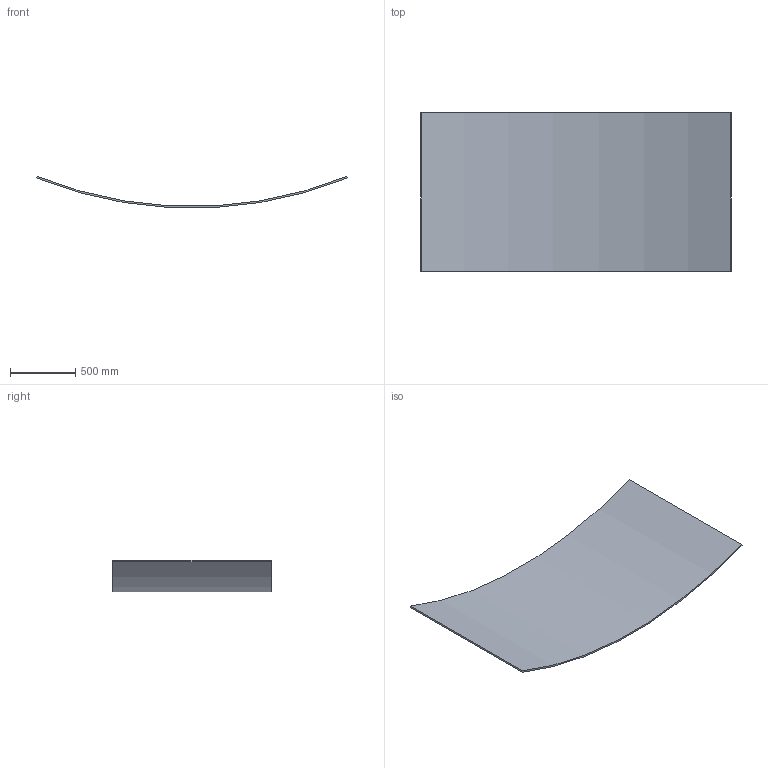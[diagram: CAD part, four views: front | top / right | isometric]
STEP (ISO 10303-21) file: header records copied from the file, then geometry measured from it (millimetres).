
FILE_DESCRIPTION(/* description */ (''),/* implementation_level */ '2;1');
FILE_NAME(/* name */ 'SM_Cloud_48x96x0.5_Convex',/* time_stamp */ '2024-10-16T11:20:37-05:00',/* author */ (''),/* organization */ (''),/* preprocessor_version */ 'ST-DEVELOPER v19.2',/* originating_system */ 'Rhino 8.4',/* authorisation */ '');
FILE_SCHEMA (('CONFIG_CONTROL_DESIGN'));
Length unit declared in the file: inch
Products named in the file (1): Document
Bounding box: 2388.43 x 1219.2 x 239.13 mm (x, y, z)
Volume: 37831342.6 mm3; surface area: 6050718.7 mm2
Topology: 1 solids, 1 shells, 6 faces, 12 edges, 8 vertices
Faces by surface type: plane 4, cylinder 2
Entity records: 246 total; most frequent: CARTESIAN_POINT 44, ORIENTED_EDGE 24, DIRECTION 18, EDGE_CURVE 12, AXIS2_PLACEMENT_3D 12, B_SPLINE_CURVE_WITH_KNOTS 8, VERTEX_POINT 8, ORGANIZATION 7
